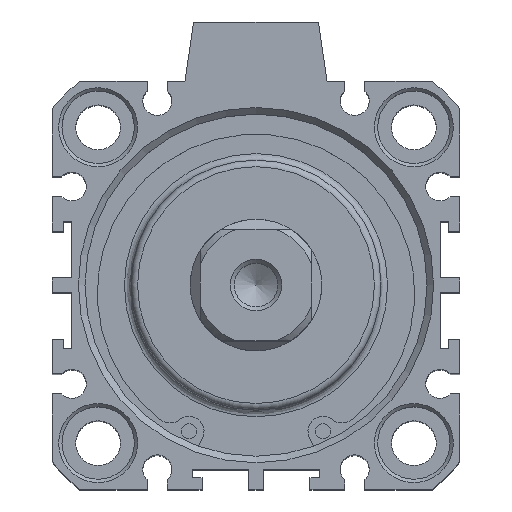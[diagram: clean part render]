
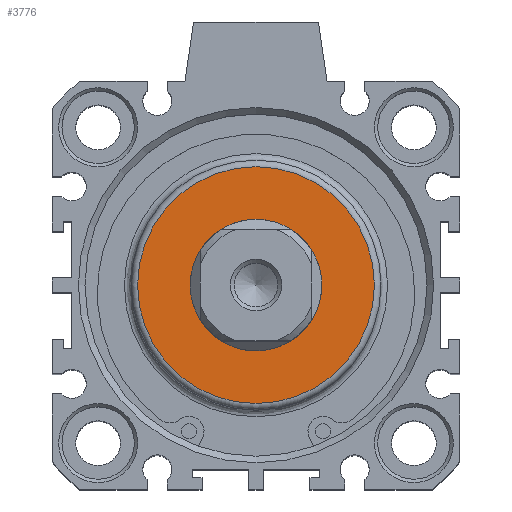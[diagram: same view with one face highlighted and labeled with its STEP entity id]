
A CAD part, top view. The second image highlights one B-rep face of the part: STEP entity #3776.
In plain terms, the highlighted planar face has unit normal (0, 0, 1).
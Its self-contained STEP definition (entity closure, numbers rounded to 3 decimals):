
#3276=CARTESIAN_POINT('',(-7.057,11.794,82.5));
#3277=VERTEX_POINT('',#3276);
#3278=CARTESIAN_POINT('',(-7.057,1.794,82.5));
#3279=DIRECTION('',(0.0,0.0,-1.0));
#3280=DIRECTION('',(0.0,1.0,0.0));
#3281=AXIS2_PLACEMENT_3D('',#3278,#3279,#3280);
#3282=CIRCLE('',#3281,10.);
#3283=EDGE_CURVE('',#3277,#3277,#3282,.T.);
#3750=CARTESIAN_POINT('',(-7.057,19.794,82.5));
#3751=VERTEX_POINT('',#3750);
#3752=CARTESIAN_POINT('',(-7.057,1.794,82.5));
#3753=DIRECTION('',(0.0,0.0,-1.0));
#3754=DIRECTION('',(0.0,-1.0,0.0));
#3755=AXIS2_PLACEMENT_3D('',#3752,#3753,#3754);
#3756=CIRCLE('',#3755,18.0);
#3757=EDGE_CURVE('',#3751,#3751,#3756,.T.);
#3765=CARTESIAN_POINT('',(-7.057,11.294,82.5));
#3766=DIRECTION('',(0.0,0.0,1.0));
#3767=DIRECTION('',(1.0,0.0,0.0));
#3768=AXIS2_PLACEMENT_3D('',#3765,#3766,#3767);
#3769=PLANE('',#3768);
#3770=ORIENTED_EDGE('',*,*,#3757,.F.);
#3771=EDGE_LOOP('',(#3770));
#3772=FACE_OUTER_BOUND('',#3771,.T.);
#3773=ORIENTED_EDGE('',*,*,#3283,.T.);
#3774=EDGE_LOOP('',(#3773));
#3775=FACE_BOUND('',#3774,.T.);
#3776=ADVANCED_FACE('',(#3772,#3775),#3769,.T.);
